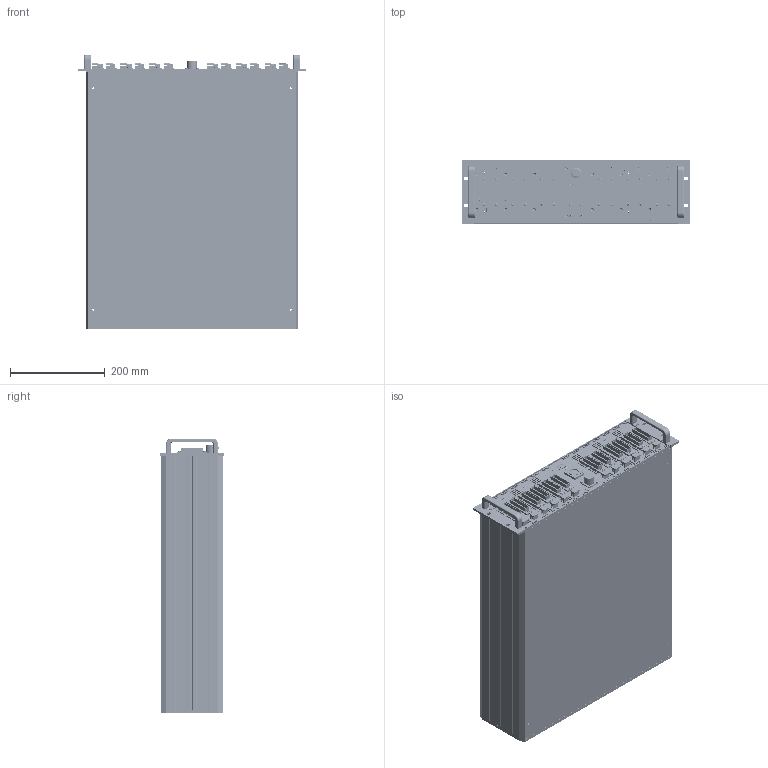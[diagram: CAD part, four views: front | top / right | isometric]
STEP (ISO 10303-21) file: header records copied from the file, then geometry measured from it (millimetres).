
FILE_DESCRIPTION (( 'STEP AP203' ), '1' );
FILE_NAME ('E80.D156-H-諷秶ん.STEP', '2025-07-16T05:18:34', ( 'China' ), ( 'Home' ), 'SwSTEP 2.0', 'SolidWorks 2016', '' );
FILE_SCHEMA (( 'CONFIG_CONTROL_DESIGN' ));
Length unit declared in the file: millimetre
Products named in the file (1): E80.D156-H-諷秶ん
Bounding box: 482.2 x 134 x 580.65 mm (x, y, z)
Surface area: 1007447.2 mm2 (no closed solid volume)
Topology: 0 solids, 1089 shells, 4689 faces, 19833 edges, 15786 vertices
Faces by surface type: plane 2374, cylinder 1926, cone 235, torus 80, sphere 56, bspline 18
Entity records: 215170 total; most frequent: CARTESIAN_POINT 51902, DIRECTION 35230, ORIENTED_EDGE 26855, EDGE_CURVE 19833, VERTEX_POINT 15786, AXIS2_PLACEMENT_3D 11998, LINE 11234, VECTOR 11234
